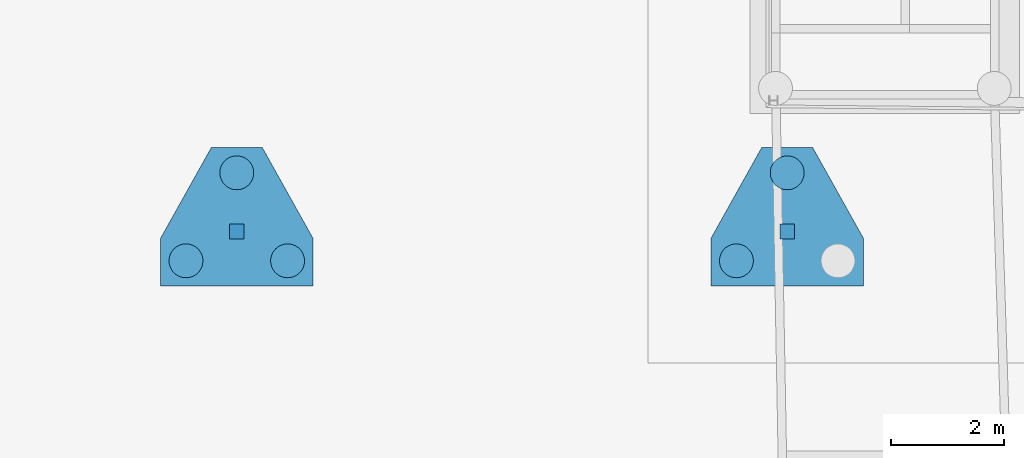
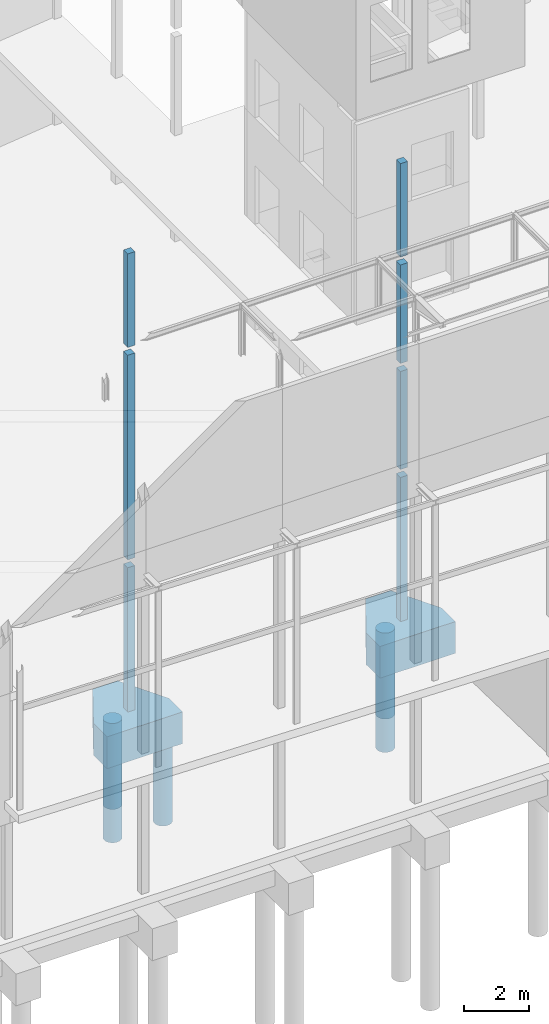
# One storey, part 15 of 82: 14 columns.
"""IFC2X3 building model written with IfcOpenShell, lengths in millimetres."""

from ifc_helpers import new_model, si_unit, frame, frame_2d, origin_with_axes, place, context, subcontext, project, spatial, polyline, rectangle, circle, outline, extrude, material, type_object, element, save


model = new_model("IFC2X3")

# Units and contexts
model_context = context("Model", 3, precision=1e-05, world=origin_with_axes())
body_context = subcontext(model_context, "Body", "Model", "MODEL_VIEW")
ifc_project = project(units=[si_unit("LENGTHUNIT", "METRE", prefix="MILLI"), si_unit("AREAUNIT", "SQUARE_METRE"), si_unit("VOLUMEUNIT", "CUBIC_METRE"), si_unit("MASSUNIT", "GRAM", prefix="KILO"), si_unit("TIMEUNIT", "SECOND"), si_unit("PLANEANGLEUNIT", "RADIAN"), si_unit("SOLIDANGLEUNIT", "STERADIAN"), si_unit("THERMODYNAMICTEMPERATUREUNIT", "DEGREE_CELSIUS"), si_unit("LUMINOUSINTENSITYUNIT", "LUMEN")], contexts=[model_context])

# Site, building, storey
site_placement = place(None, origin_with_axes())
site = spatial("IfcSite", under=ifc_project, at=site_placement, Name="Undefined", CompositionType="ELEMENT")
building_placement = place(site_placement, origin_with_axes())
building = spatial("IfcBuilding", under=site, at=building_placement, Name="Undefined", CompositionType="ELEMENT")
storey_placement = place(building_placement, origin_with_axes())
storey = spatial("IfcBuildingStorey", under=building, at=storey_placement, Name="Undefined", CompositionType="ELEMENT", Elevation=0.0)

# Columns
ifc_material_1 = material(Name="CONCRETE/C25/30")
column_type_1 = type_object("IfcColumnType", Name="260*260", PredefinedType="NOTDEFINED")
for number, where, z_axis, x_axis, name in (
    (1, (29249.9999999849, 9299.99968717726, 13330.0), (0.0, 0.0, 1.0), (1.0, 0.0, 0.0), "POTEAU"),
    (2, (19499.9999999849, 9299.99968719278, 13330.0), (0.0, 0.0, 1.0), (1.0, 0.0, 0.0), "POTEAU"),
):
    element("IfcColumn", number, at=place(storey_placement, frame(where, z_axis=z_axis, x_axis=x_axis)), inside=storey, type_object=column_type_1, material=ifc_material_1, Name=name, ObjectType="260*260", context=body_context, shape_type="SweptSolid", body=[
        extrude(rectangle(XDim=260.0, YDim=260.0, at=frame_2d((5.17284206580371e-08, 4.49290382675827e-10), x_axis=(1.0, 0.0))), frame((0.0, 0.0, 3529.99999999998), z_axis=(0.0, -6.50000002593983e-08, -0.999999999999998), x_axis=(-1.0, 0.0, 0.0)), (0.0, 0.0, 1.0), 3530.0),
    ])
column_1_placement = place(storey_placement, frame((29249.9999999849, 9299.99968717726, 9305.0), z_axis=(0.0, 0.0, 1.0), x_axis=(1.0, 0.0, 0.0)))
element("IfcColumn", 3, at=column_1_placement, inside=storey, type_object=column_type_1, material=ifc_material_1, Name="POTEAU", ObjectType="260*260", context=body_context, shape_type="SweptSolid", body=[
    extrude(rectangle(XDim=260.0, YDim=260.0, at=frame_2d((5.17284206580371e-08, 4.49290382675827e-10), x_axis=(1.0, 0.0))), frame((0.0, 0.0, 3725.0), z_axis=(0.0, -6.50000002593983e-08, -0.999999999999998), x_axis=(-1.0, 0.0, 0.0)), (0.0, 0.0, 1.0), 3725.0),
])
column_2_placement = place(storey_placement, frame((29249.9999999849, 9299.99968717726, 5300.0), z_axis=(0.0, 0.0, 1.0), x_axis=(1.0, 0.0, 0.0)))
element("IfcColumn", 4, at=column_2_placement, inside=storey, type_object=column_type_1, material=ifc_material_1, Name="POTEAU", ObjectType="260*260", context=body_context, shape_type="SweptSolid", body=[
    extrude(rectangle(XDim=260.0, YDim=260.0, at=frame_2d((5.17284206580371e-08, 4.49290382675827e-10), x_axis=(1.0, 0.0))), frame((0.0, 0.0, 3705.00000000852), z_axis=(0.0, -6.50000002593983e-08, -0.999999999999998), x_axis=(-1.0, 0.0, 0.0)), (0.0, 0.0, 1.0), 3705.0),
])
column_3_placement = place(storey_placement, frame((19499.9999999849, 9299.99968719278, 5300.0), z_axis=(0.0, 0.0, 1.0), x_axis=(1.0, 0.0, 0.0)))
element("IfcColumn", 5, at=column_3_placement, inside=storey, type_object=column_type_1, material=ifc_material_1, Name="POTEAU", ObjectType="260*260", context=body_context, shape_type="SweptSolid", body=[
    extrude(rectangle(XDim=260.0, YDim=260.0, at=frame_2d((5.17284206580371e-08, 4.49290382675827e-10), x_axis=(1.0, 0.0))), frame((0.0, 0.0, 7730.0), z_axis=(0.0, -6.50000002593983e-08, -0.999999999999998), x_axis=(-1.0, 0.0, 0.0)), (0.0, 0.0, 1.0), 7730.0),
])
column_4_placement = place(storey_placement, frame((29249.9999999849, 9299.99968717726, -449.999511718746), z_axis=(0.0, 0.0, 1.0), x_axis=(1.0, 0.0, 0.0)))
element("IfcColumn", 6, at=column_4_placement, inside=storey, type_object=column_type_1, material=ifc_material_1, Name="POTEAU", ObjectType="260*260", context=body_context, shape_type="SweptSolid", body=[
    extrude(rectangle(XDim=260.0, YDim=260.0, at=frame_2d((5.17284206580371e-08, 4.49290382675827e-10), x_axis=(1.0, 0.0))), frame((0.0, 0.0, 5449.9995117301), z_axis=(0.0, -6.50000002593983e-08, -0.999999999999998), x_axis=(-1.0, 0.0, 0.0)), (0.0, 0.0, 1.0), 5450.1),
])
column_5_placement = place(storey_placement, frame((19499.9999999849, 9299.99968719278, -449.999511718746), z_axis=(0.0, 0.0, 1.0), x_axis=(1.0, 0.0, 0.0)))
element("IfcColumn", 7, at=column_5_placement, inside=storey, type_object=column_type_1, material=ifc_material_1, Name="POTEAU", ObjectType="260*260", context=body_context, shape_type="SweptSolid", body=[
    extrude(rectangle(XDim=260.0, YDim=260.0, at=frame_2d((5.17284206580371e-08, 4.49290382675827e-10), x_axis=(1.0, 0.0))), frame((0.0, 0.0, 5449.9995117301), z_axis=(0.0, -6.50000002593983e-08, -0.999999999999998), x_axis=(-1.0, 0.0, 0.0)), (0.0, 0.0, 1.0), 5450.0),
])
ifc_material_2 = material(Name="CONCRETE/C30/37")
column_type_2 = type_object("IfcColumnType", Name="1200*2460", PredefinedType="NOTDEFINED")
for number, where, z_axis, x_axis, name in (
    (8, (28800.0012369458, 10790.4000002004, -1050.05146572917), (0.0, 0.0, 1.0), (-0.487942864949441, -0.872875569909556, 0.0), "SEMELLE"),
    (9, (19049.9997110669, 10790.4000002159, -1050.00146572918), (0.0, 0.0, 1.0), (-0.487942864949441, -0.872875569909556, 0.0), "SEMELLE"),
):
    element("IfcColumn", number, at=place(storey_placement, frame(where, z_axis=z_axis, x_axis=x_axis)), inside=storey, type_object=column_type_2, material=ifc_material_2, Name=name, ObjectType="1200*2460", context=body_context, shape_type="SweptSolid", body=[
        extrude(outline(polyline([(5.17284206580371e-08, 4.49290382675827e-10), (1844.47827153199, -8.99672158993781e-09), (2586.42260747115, 414.751434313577), (1268.97668460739, 2771.51538083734), (527.032531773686, 2356.76416013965), (-439.148559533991, 785.588012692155), (5.17284206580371e-08, 4.49290382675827e-10)])), frame((0.0, 0.0, -600.0), z_axis=(0.0, 0.0, 1.0), x_axis=(1.0, 0.0, 0.0)), (0.0, 0.0, 1.0), 1200.0),
    ])
column_type_3 = type_object("IfcColumnType", Name="D600", PredefinedType="NOTDEFINED")
for number, where, z_axis, x_axis in (
    (10, (28350.0015258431, 8780.39999994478, -4675.0), (0.0, 0.0, 1.0), (1.0, 0.0, 0.0)),
    (11, (29250.0015258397, 10339.1999999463, -4675.0), (0.0, 0.0, 1.0), (1.0, 0.0, 0.0)),
    (12, (20399.9999999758, 8780.39999996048, -4675.0), (0.0, 0.0, 1.0), (1.0, 0.0, 0.0)),
    (13, (18599.9999999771, 8780.39999996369, -4675.0), (0.0, 0.0, 1.0), (1.0, 0.0, 0.0)),
    (14, (19499.9999999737, 10339.1999999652, -4675.0), (0.0, 0.0, 1.0), (1.0, 0.0, 0.0)),
):
    element("IfcColumn", number, at=place(storey_placement, frame(where, z_axis=z_axis, x_axis=x_axis)), inside=storey, type_object=column_type_3, material=ifc_material_1, Name="PIEU", ObjectType="D600", context=body_context, shape_type="SweptSolid", body=[
        extrude(circle(Radius=300.0, at=frame_2d((5.17284206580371e-08, 4.49290382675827e-10), x_axis=(1.0, 0.0))), frame((0.0, 0.0, 3250.0), z_axis=(0.0, -6.50000002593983e-08, -0.999999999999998), x_axis=(-1.0, 0.0, 0.0)), (0.0, 0.0, 1.0), 3250.0),
    ])

save(model, "model.ifc")
